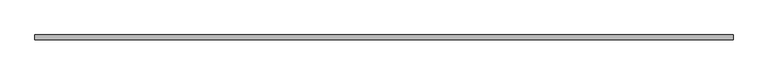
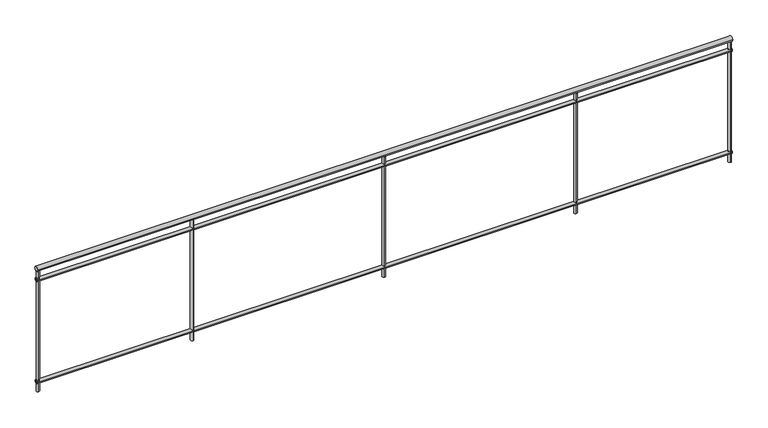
"""IFC4 building model written with IfcOpenShell, lengths in millimetres: railing geometry, バルコニー手摺."""

from ifc_helpers import new_model, si_unit, point, frame, frame_2d, origin, place, context, project, spatial, circle_curve, trimmed, segment, composite_curve, outline, extrude, source, transform, mapped, element, save


def railing_64f1176f(model_context):
    return source(origin(), model_context, "Body", "SweptSolid", [
        extrude(outline(composite_curve([segment(trimmed(circle_curve(frame_2d((10035.2598658, 10980.0)), 20.0), [point((10055.2598658, 10980.0))], [point((10015.2598658, 10980.0))], False, "CARTESIAN"), True, "CONTINUOUS"), segment(trimmed(circle_curve(frame_2d((10035.2598658, 10980.0)), 20.0), [point((10015.2598658, 10980.0))], [point((10055.2598658, 10980.0))], False, "CARTESIAN"), True, "CONTINUOUS")], self_intersect=False)), frame((-9895.6194095, 0.0, 0.0), z_axis=(1.0, 0.0, 0.0), x_axis=(0.0, 1.0, 0.0)), (0.0, 0.0, 1.0), 5800.0),
        extrude(outline(composite_curve([segment(trimmed(circle_curve(frame_2d((10035.2598658, 10885.0)), 15.0), [point((10050.2598658, 10885.0))], [point((10020.2598658, 10885.0))], False, "CARTESIAN"), True, "CONTINUOUS"), segment(trimmed(circle_curve(frame_2d((10035.2598658, 10885.0)), 15.0), [point((10020.2598658, 10885.0))], [point((10050.2598658, 10885.0))], False, "CARTESIAN"), True, "CONTINUOUS")], self_intersect=False)), frame((-9895.6194095, 0.0, 0.0), z_axis=(1.0, 0.0, 0.0), x_axis=(0.0, 1.0, 0.0)), (0.0, 0.0, 1.0), 5800.0),
        extrude(outline(composite_curve([segment(trimmed(circle_curve(frame_2d((10035.2598658, 9985.0)), 15.0), [point((10050.2598658, 9985.0))], [point((10020.2598658, 9985.0))], False, "CARTESIAN"), True, "CONTINUOUS"), segment(trimmed(circle_curve(frame_2d((10035.2598658, 9985.0)), 15.0), [point((10020.2598658, 9985.0))], [point((10050.2598658, 9985.0))], False, "CARTESIAN"), True, "CONTINUOUS")], self_intersect=False)), frame((-9895.6194095, 0.0, 0.0), z_axis=(1.0, 0.0, 0.0), x_axis=(0.0, 1.0, 0.0)), (0.0, 0.0, 1.0), 5800.0),
        extrude(outline(composite_curve([segment(trimmed(circle_curve(frame_2d((-5395.6194095, 10035.2598658)), 12.5), [point((-5395.6194095, 10047.7598658))], [point((-5395.6194095, 10022.7598658))], False, "CARTESIAN"), True, "CONTINUOUS"), segment(trimmed(circle_curve(frame_2d((-5395.6194095, 10035.2598658)), 12.5), [point((-5395.6194095, 10022.7598658))], [point((-5395.6194095, 10047.7598658))], False, "CARTESIAN"), True, "CONTINUOUS")], self_intersect=False)), frame((0.0, 0.0, 9900.0), z_axis=(0.0, 0.0, 1.0), x_axis=(1.0, 0.0, 0.0)), (0.0, 0.0, 1.0), 1060.0),
        extrude(outline(composite_curve([segment(trimmed(circle_curve(frame_2d((-6995.6194095, 10035.2598658)), 12.5), [point((-6995.6194095, 10047.7598658))], [point((-6995.6194095, 10022.7598658))], False, "CARTESIAN"), True, "CONTINUOUS"), segment(trimmed(circle_curve(frame_2d((-6995.6194095, 10035.2598658)), 12.5), [point((-6995.6194095, 10022.7598658))], [point((-6995.6194095, 10047.7598658))], False, "CARTESIAN"), True, "CONTINUOUS")], self_intersect=False)), frame((0.0, 0.0, 9900.0), z_axis=(0.0, 0.0, 1.0), x_axis=(1.0, 0.0, 0.0)), (0.0, 0.0, 1.0), 1060.0),
        extrude(outline(composite_curve([segment(trimmed(circle_curve(frame_2d((-8595.6194095, 10035.2598658)), 12.5), [point((-8595.6194095, 10047.7598658))], [point((-8595.6194095, 10022.7598658))], False, "CARTESIAN"), True, "CONTINUOUS"), segment(trimmed(circle_curve(frame_2d((-8595.6194095, 10035.2598658)), 12.5), [point((-8595.6194095, 10022.7598658))], [point((-8595.6194095, 10047.7598658))], False, "CARTESIAN"), True, "CONTINUOUS")], self_intersect=False)), frame((0.0, 0.0, 9900.0), z_axis=(0.0, 0.0, 1.0), x_axis=(1.0, 0.0, 0.0)), (0.0, 0.0, 1.0), 1060.0),
        extrude(outline(composite_curve([segment(trimmed(circle_curve(frame_2d((-4107.8194095, 10035.2598658)), 12.5), [point((-4107.8194095, 10047.7598658))], [point((-4107.8194095, 10022.7598658))], False, "CARTESIAN"), True, "CONTINUOUS"), segment(trimmed(circle_curve(frame_2d((-4107.8194095, 10035.2598658)), 12.5), [point((-4107.8194095, 10022.7598658))], [point((-4107.8194095, 10047.7598658))], False, "CARTESIAN"), True, "CONTINUOUS")], self_intersect=False)), frame((0.0, 0.0, 9900.0), z_axis=(0.0, 0.0, 1.0), x_axis=(1.0, 0.0, 0.0)), (0.0, 0.0, 1.0), 1060.0),
        extrude(outline(composite_curve([segment(trimmed(circle_curve(frame_2d((-9883.4194095, 10035.2598658)), 12.5), [point((-9883.4194095, 10047.7598658))], [point((-9883.4194095, 10022.7598658))], False, "CARTESIAN"), True, "CONTINUOUS"), segment(trimmed(circle_curve(frame_2d((-9883.4194095, 10035.2598658)), 12.5), [point((-9883.4194095, 10022.7598658))], [point((-9883.4194095, 10047.7598658))], False, "CARTESIAN"), True, "CONTINUOUS")], self_intersect=False)), frame((0.0, 0.0, 9900.0), z_axis=(0.0, 0.0, 1.0), x_axis=(1.0, 0.0, 0.0)), (0.0, 0.0, 1.0), 1060.0),
    ])


if __name__ == "__main__":
    model = new_model("IFC4")
    model_context = context("Model", 3, world=origin())
    ifc_project = project(units=[si_unit("LENGTHUNIT", "METRE", prefix="MILLI")], contexts=[model_context])
    site = spatial("IfcSite", under=ifc_project)
    building = spatial("IfcBuilding", under=site)
    placement = place(None, origin())
    railing_shape = railing_64f1176f(model_context)
    element("IfcRailing", 1, ObjectType="バルコニー手摺", at=placement, inside=building, context=model_context, shape_type="MappedRepresentation", body=[
        mapped(railing_shape, transform((0.0, 0.0, 0.0), x_axis=(1.0, 0.0, 0.0), y_axis=(0.0, 1.0, 0.0), z_axis=(0.0, 0.0, 1.0))),
    ])
    save(model, "model.ifc")
